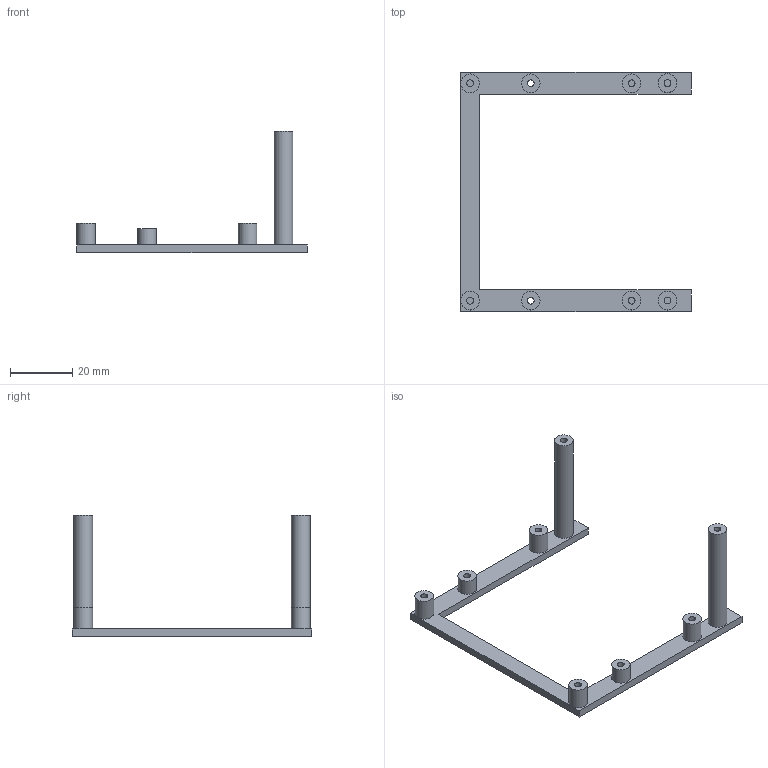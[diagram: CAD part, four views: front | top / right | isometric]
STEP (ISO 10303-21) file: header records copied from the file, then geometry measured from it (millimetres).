
FILE_DESCRIPTION(('Open CASCADE Model'),'2;1');
FILE_NAME('Open CASCADE Shape Model','2026-08-29T07:31:45',('Author'),( 'Open CASCADE'),'Open CASCADE STEP processor 7.9','build123d', 'Unknown');
FILE_SCHEMA(('AUTOMOTIVE_DESIGN { 1 0 10303 214 1 1 1 1 }'));
Length unit declared in the file: millimetre
Products named in the file (1): COMPOUND
Bounding box: 74.17 x 77 x 39.08 mm (x, y, z)
Volume: 6462 mm3; surface area: 6441.7 mm2
Topology: 1 solids, 1 shells, 40 faces, 76 edges, 50 vertices
Faces by surface type: plane 24, cylinder 16
Full cylindrical faces by diameter (mm): 2.2 x8, 6 x8
Entity records: 2032 total; most frequent: DIRECTION 344, CARTESIAN_POINT 321, LINE 160, VECTOR 160, ORIENTED_EDGE 152, PCURVE 152, DEFINITIONAL_REPRESENTATION 152, EDGE_CURVE 76
